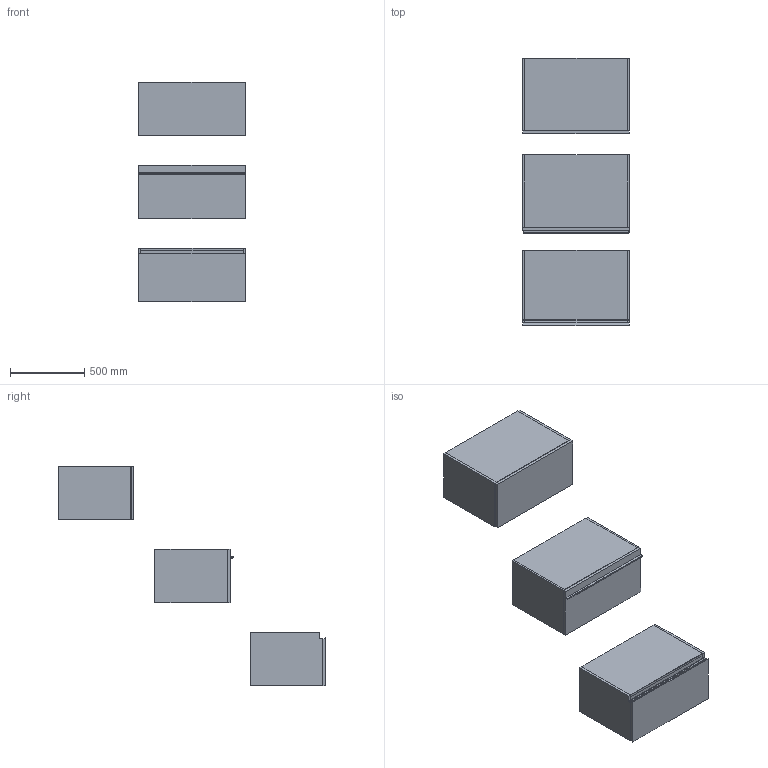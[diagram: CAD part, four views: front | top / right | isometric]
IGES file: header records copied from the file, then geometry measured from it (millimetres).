
Start section: Data from Parasolid IGES Translator 19.0.9, Copyright(c) 2006 Siemens PL M Software. All Rights Reserved.
Global section: file name: noorth-SI-H 36 D 51 W 72_8369.igs; native system: By Siemens PLM Incorporated; preprocessor: XPlus GENERIC/IGES 19.0.9; author: Noname; organization: Noname; date: 20200601.095319; units: metre
Bounding box: 720.01 x 1799.15 x 1480 mm (x, y, z)
Volume: 64999446.4 mm3; surface area: 9592847.7 mm2
Topology: 20 solids, 20 shells, 178 faces, 382 edges, 234 vertices
Faces by surface type: plane 134, extrusion 16, bspline 16, cylinder 12
